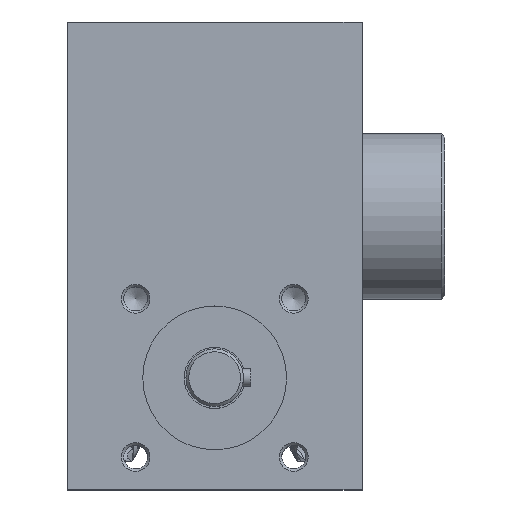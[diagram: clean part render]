
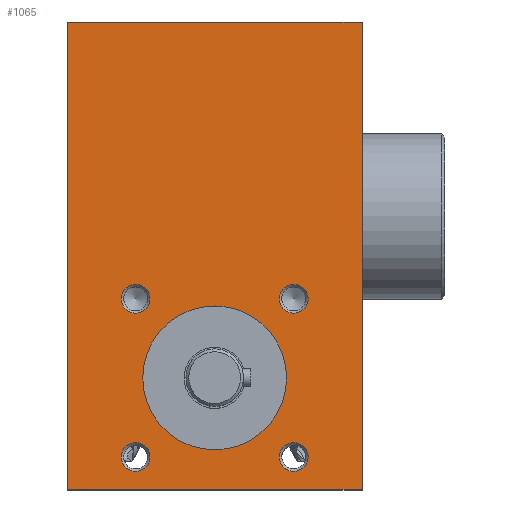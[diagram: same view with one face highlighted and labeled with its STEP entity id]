
A CAD part, top view. The second image highlights one B-rep face of the part: STEP entity #1065.
In plain terms, the highlighted planar face has unit normal (0, 0, 1).
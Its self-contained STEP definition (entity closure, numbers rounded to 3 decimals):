
#86=LINE('',#1692,#114);
#90=LINE('',#1711,#118);
#92=LINE('',#1715,#120);
#93=LINE('',#1716,#121);
#114=VECTOR('',#1331,130.);
#118=VECTOR('',#1349,82.);
#120=VECTOR('',#1353,130.);
#121=VECTOR('',#1354,82.);
#144=PLANE('',#1163);
#171=FACE_BOUND('',#337,.T.);
#172=FACE_BOUND('',#338,.T.);
#173=FACE_BOUND('',#339,.T.);
#174=FACE_BOUND('',#340,.T.);
#175=FACE_BOUND('',#341,.T.);
#241=FACE_OUTER_BOUND('',#336,.T.);
#336=EDGE_LOOP('',(#803,#804,#805,#806));
#337=EDGE_LOOP('',(#807));
#338=EDGE_LOOP('',(#808));
#339=EDGE_LOOP('',(#809));
#340=EDGE_LOOP('',(#810));
#341=EDGE_LOOP('',(#811));
#491=CIRCLE('',#1164,4.);
#492=CIRCLE('',#1165,4.);
#493=CIRCLE('',#1166,4.);
#494=CIRCLE('',#1167,4.);
#495=CIRCLE('',#1168,20.);
#562=VERTEX_POINT('',#1689);
#563=VERTEX_POINT('',#1691);
#571=VERTEX_POINT('',#1709);
#572=VERTEX_POINT('',#1714);
#573=VERTEX_POINT('',#1717);
#574=VERTEX_POINT('',#1719);
#575=VERTEX_POINT('',#1721);
#576=VERTEX_POINT('',#1723);
#577=VERTEX_POINT('',#1725);
#665=EDGE_CURVE('',#563,#562,#86,.T.);
#674=EDGE_CURVE('',#562,#571,#90,.T.);
#676=EDGE_CURVE('',#571,#572,#92,.T.);
#677=EDGE_CURVE('',#572,#563,#93,.T.);
#678=EDGE_CURVE('',#573,#573,#491,.T.);
#679=EDGE_CURVE('',#574,#574,#492,.T.);
#680=EDGE_CURVE('',#575,#575,#493,.T.);
#681=EDGE_CURVE('',#576,#576,#494,.T.);
#682=EDGE_CURVE('',#577,#577,#495,.T.);
#803=ORIENTED_EDGE('',*,*,#665,.T.);
#804=ORIENTED_EDGE('',*,*,#674,.T.);
#805=ORIENTED_EDGE('',*,*,#676,.T.);
#806=ORIENTED_EDGE('',*,*,#677,.T.);
#807=ORIENTED_EDGE('',*,*,#678,.F.);
#808=ORIENTED_EDGE('',*,*,#679,.F.);
#809=ORIENTED_EDGE('',*,*,#680,.F.);
#810=ORIENTED_EDGE('',*,*,#681,.F.);
#811=ORIENTED_EDGE('',*,*,#682,.F.);
#1065=ADVANCED_FACE('',(#241,#171,#172,#173,#174,#175),#144,.T.);
#1163=AXIS2_PLACEMENT_3D('',#1713,#1351,#1352);
#1164=AXIS2_PLACEMENT_3D('',#1718,#1355,#1356);
#1165=AXIS2_PLACEMENT_3D('',#1720,#1357,#1358);
#1166=AXIS2_PLACEMENT_3D('',#1722,#1359,#1360);
#1167=AXIS2_PLACEMENT_3D('',#1724,#1361,#1362);
#1168=AXIS2_PLACEMENT_3D('',#1726,#1363,#1364);
#1331=DIRECTION('',(0.,-1.,0.));
#1349=DIRECTION('',(1.,0.,0.));
#1351=DIRECTION('center_axis',(0.,0.,1.));
#1352=DIRECTION('ref_axis',(1.,0.,0.));
#1353=DIRECTION('',(0.,1.,0.));
#1354=DIRECTION('',(-1.,0.,0.));
#1355=DIRECTION('center_axis',(0.,0.,1.));
#1356=DIRECTION('ref_axis',(-1.,0.,0.));
#1357=DIRECTION('center_axis',(0.,0.,1.));
#1358=DIRECTION('ref_axis',(-1.,0.,0.));
#1359=DIRECTION('center_axis',(0.,0.,1.));
#1360=DIRECTION('ref_axis',(-1.,0.,0.));
#1361=DIRECTION('center_axis',(0.,0.,1.));
#1362=DIRECTION('ref_axis',(-1.,0.,0.));
#1363=DIRECTION('center_axis',(0.,0.,1.));
#1364=DIRECTION('ref_axis',(-1.,0.,0.));
#1689=CARTESIAN_POINT('',(0.,-76.,52.5));
#1691=CARTESIAN_POINT('',(0.,54.,52.5));
#1692=CARTESIAN_POINT('',(0.,-11.,52.5));
#1709=CARTESIAN_POINT('',(82.,-76.,52.5));
#1711=CARTESIAN_POINT('',(41.,-76.,52.5));
#1713=CARTESIAN_POINT('Origin',(0.,-76.,52.5));
#1714=CARTESIAN_POINT('',(82.,54.,52.5));
#1715=CARTESIAN_POINT('',(82.,-11.,52.5));
#1716=CARTESIAN_POINT('',(41.,54.,52.5));
#1717=CARTESIAN_POINT('',(15.,-23.,52.5));
#1718=CARTESIAN_POINT('Origin',(19.,-23.,52.5));
#1719=CARTESIAN_POINT('',(59.,-23.,52.5));
#1720=CARTESIAN_POINT('Origin',(63.,-23.,52.5));
#1721=CARTESIAN_POINT('',(59.,-67.,52.5));
#1722=CARTESIAN_POINT('Origin',(63.,-67.,52.5));
#1723=CARTESIAN_POINT('',(15.,-67.,52.5));
#1724=CARTESIAN_POINT('Origin',(19.,-67.,52.5));
#1725=CARTESIAN_POINT('',(61.,-45.,52.5));
#1726=CARTESIAN_POINT('Origin',(41.,-45.,52.5));
